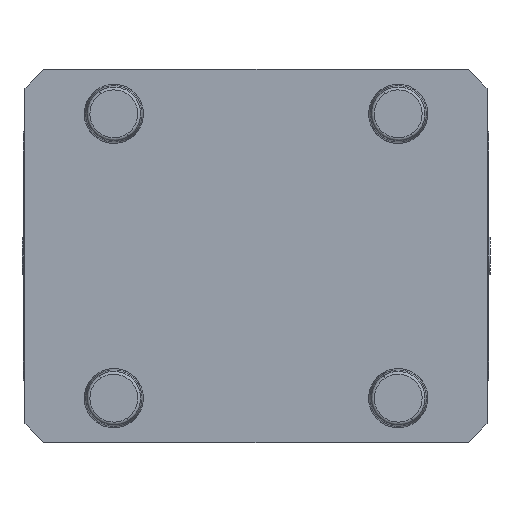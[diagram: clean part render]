
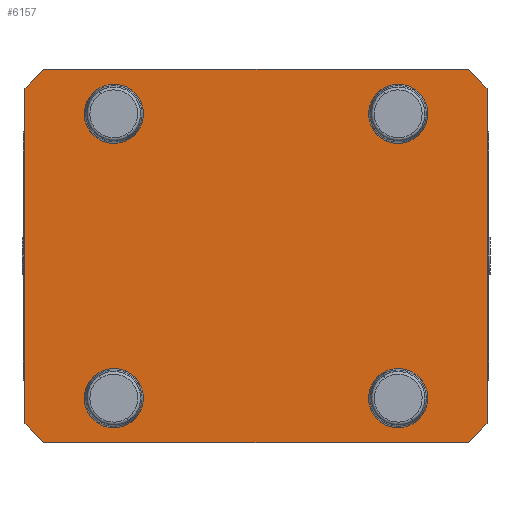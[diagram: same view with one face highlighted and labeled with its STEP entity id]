
A CAD part, front view. The second image highlights one B-rep face of the part: STEP entity #6157.
In plain terms, the highlighted planar face has unit normal (0, -1, 0).
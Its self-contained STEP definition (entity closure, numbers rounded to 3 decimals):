
#25 = VERTEX_POINT ( 'NONE', #4413 ) ;
#33 = VERTEX_POINT ( 'NONE', #825 ) ;
#124 = EDGE_CURVE ( 'NONE', #2183, #6314, #5412, .T. ) ;
#166 = CARTESIAN_POINT ( 'NONE',  ( -48., 0., 48. ) ) ;
#344 = CARTESIAN_POINT ( 'NONE',  ( -78., 0., 63. ) ) ;
#371 = DIRECTION ( 'NONE',  ( 1., 0., 0. ) ) ;
#394 = CARTESIAN_POINT ( 'NONE',  ( -48., 0., 56.01 ) ) ;
#543 = FACE_OUTER_BOUND ( 'NONE', #2702, .T. ) ;
#592 = VECTOR ( 'NONE', #3874, 1000. ) ;
#667 = LINE ( 'NONE', #7151, #6449 ) ;
#675 = LINE ( 'NONE', #1083, #2282 ) ;
#681 = DIRECTION ( 'NONE',  ( 0., 0., 1. ) ) ;
#733 = CARTESIAN_POINT ( 'NONE',  ( -48., 0., 39.99 ) ) ;
#747 = LINE ( 'NONE', #6054, #4179 ) ;
#791 = CARTESIAN_POINT ( 'NONE',  ( 78., 0., -63. ) ) ;
#816 = ORIENTED_EDGE ( 'NONE', *, *, #5406, .F. ) ;
#825 = CARTESIAN_POINT ( 'NONE',  ( -71.65, 0., -63. ) ) ;
#859 = CARTESIAN_POINT ( 'NONE',  ( 48., 0., -39.99 ) ) ;
#913 = CARTESIAN_POINT ( 'NONE',  ( -48., 0., -39.99 ) ) ;
#914 = AXIS2_PLACEMENT_3D ( 'NONE', #166, #2007, #3916 ) ;
#938 = DIRECTION ( 'NONE',  ( 0., -1., 0. ) ) ;
#971 = ORIENTED_EDGE ( 'NONE', *, *, #4555, .T. ) ;
#1018 = DIRECTION ( 'NONE',  ( 0., 1., 0. ) ) ;
#1038 = CIRCLE ( 'NONE', #914, 8.01 ) ;
#1082 = AXIS2_PLACEMENT_3D ( 'NONE', #3462, #4093, #7651 ) ;
#1083 = CARTESIAN_POINT ( 'NONE',  ( -71.65, 0., 63. ) ) ;
#1124 = EDGE_CURVE ( 'NONE', #5353, #6314, #747, .T. ) ;
#1142 = VERTEX_POINT ( 'NONE', #7800 ) ;
#1166 = DIRECTION ( 'NONE',  ( 0., -1., 0. ) ) ;
#1299 = EDGE_LOOP ( 'NONE', ( #7750, #2838 ) ) ;
#1494 = LINE ( 'NONE', #791, #7843 ) ;
#1575 = CARTESIAN_POINT ( 'NONE',  ( -48., 0., -56.01 ) ) ;
#1605 = DIRECTION ( 'NONE',  ( 0., -1., 0. ) ) ;
#1627 = EDGE_LOOP ( 'NONE', ( #7129, #3402 ) ) ;
#1821 = VERTEX_POINT ( 'NONE', #2070 ) ;
#1864 = CARTESIAN_POINT ( 'NONE',  ( 78., 0., 56.65 ) ) ;
#1891 = AXIS2_PLACEMENT_3D ( 'NONE', #7093, #6435, #4019 ) ;
#1907 = EDGE_CURVE ( 'NONE', #3153, #7137, #3192, .T. ) ;
#1991 = ORIENTED_EDGE ( 'NONE', *, *, #6802, .F. ) ;
#2007 = DIRECTION ( 'NONE',  ( 0., -1., 0. ) ) ;
#2017 = EDGE_CURVE ( 'NONE', #6093, #2240, #3755, .T. ) ;
#2070 = CARTESIAN_POINT ( 'NONE',  ( -78., 0., -56.65 ) ) ;
#2095 = VECTOR ( 'NONE', #6599, 1000. ) ;
#2151 = EDGE_CURVE ( 'NONE', #1821, #6112, #7505, .T. ) ;
#2183 = VERTEX_POINT ( 'NONE', #3696 ) ;
#2240 = VERTEX_POINT ( 'NONE', #733 ) ;
#2252 = DIRECTION ( 'NONE',  ( 0., 0., -1. ) ) ;
#2282 = VECTOR ( 'NONE', #5597, 1000. ) ;
#2361 = DIRECTION ( 'NONE',  ( 0.707, 0., 0.707 ) ) ;
#2377 = DIRECTION ( 'NONE',  ( -0.707, 0., 0.707 ) ) ;
#2517 = FACE_BOUND ( 'NONE', #1627, .T. ) ;
#2702 = EDGE_LOOP ( 'NONE', ( #4339, #5054, #5271, #5998, #1991, #971, #7503, #2792 ) ) ;
#2739 = DIRECTION ( 'NONE',  ( 0., 0., 1. ) ) ;
#2792 = ORIENTED_EDGE ( 'NONE', *, *, #1124, .T. ) ;
#2838 = ORIENTED_EDGE ( 'NONE', *, *, #5593, .F. ) ;
#2930 = CIRCLE ( 'NONE', #3809, 8.01 ) ;
#2936 = CARTESIAN_POINT ( 'NONE',  ( 48., 0., -56.01 ) ) ;
#3015 = CIRCLE ( 'NONE', #1891, 8.01 ) ;
#3033 = DIRECTION ( 'NONE',  ( 0., -1., 0. ) ) ;
#3140 = VECTOR ( 'NONE', #371, 1000. ) ;
#3153 = VERTEX_POINT ( 'NONE', #2936 ) ;
#3192 = CIRCLE ( 'NONE', #1082, 8.01 ) ;
#3237 = ORIENTED_EDGE ( 'NONE', *, *, #4299, .F. ) ;
#3296 = DIRECTION ( 'NONE',  ( 0., 0., -1. ) ) ;
#3310 = EDGE_CURVE ( 'NONE', #1821, #33, #7297, .T. ) ;
#3330 = LINE ( 'NONE', #4187, #2095 ) ;
#3333 = CARTESIAN_POINT ( 'NONE',  ( 48., 0., -48. ) ) ;
#3402 = ORIENTED_EDGE ( 'NONE', *, *, #5038, .F. ) ;
#3462 = CARTESIAN_POINT ( 'NONE',  ( 48., 0., -48. ) ) ;
#3495 = DIRECTION ( 'NONE',  ( 0., 0., -1. ) ) ;
#3573 = CARTESIAN_POINT ( 'NONE',  ( 71.65, 0., 63. ) ) ;
#3588 = CARTESIAN_POINT ( 'NONE',  ( -48., 0., 48. ) ) ;
#3691 = DIRECTION ( 'NONE',  ( 0., 0., -1. ) ) ;
#3696 = CARTESIAN_POINT ( 'NONE',  ( -71.65, 0., 63. ) ) ;
#3755 = CIRCLE ( 'NONE', #5115, 8.01 ) ;
#3809 = AXIS2_PLACEMENT_3D ( 'NONE', #4748, #1605, #2252 ) ;
#3874 = DIRECTION ( 'NONE',  ( 0.707, 0., -0.707 ) ) ;
#3916 = DIRECTION ( 'NONE',  ( 0., 0., -1. ) ) ;
#4019 = DIRECTION ( 'NONE',  ( 0., 0., -1. ) ) ;
#4093 = DIRECTION ( 'NONE',  ( 0., -1., 0. ) ) ;
#4160 = FACE_BOUND ( 'NONE', #1299, .T. ) ;
#4179 = VECTOR ( 'NONE', #2377, 1000. ) ;
#4187 = CARTESIAN_POINT ( 'NONE',  ( -78., 0., -63. ) ) ;
#4210 = VERTEX_POINT ( 'NONE', #7280 ) ;
#4225 = EDGE_CURVE ( 'NONE', #2183, #6112, #675, .T. ) ;
#4299 = EDGE_CURVE ( 'NONE', #4210, #7509, #4563, .T. ) ;
#4339 = ORIENTED_EDGE ( 'NONE', *, *, #124, .F. ) ;
#4342 = DIRECTION ( 'NONE',  ( 0., -1., 0. ) ) ;
#4413 = CARTESIAN_POINT ( 'NONE',  ( 71.65, 0., -63. ) ) ;
#4432 = CARTESIAN_POINT ( 'NONE',  ( -78., 0., -56.65 ) ) ;
#4555 = EDGE_CURVE ( 'NONE', #25, #1142, #667, .T. ) ;
#4563 = CIRCLE ( 'NONE', #7122, 8.01 ) ;
#4639 = CARTESIAN_POINT ( 'NONE',  ( 0., 0., 0. ) ) ;
#4748 = CARTESIAN_POINT ( 'NONE',  ( -48., 0., -48. ) ) ;
#4908 = EDGE_CURVE ( 'NONE', #5353, #1142, #1494, .T. ) ;
#4981 = CARTESIAN_POINT ( 'NONE',  ( 48., 0., 39.99 ) ) ;
#5038 = EDGE_CURVE ( 'NONE', #5636, #6187, #3015, .T. ) ;
#5054 = ORIENTED_EDGE ( 'NONE', *, *, #4225, .T. ) ;
#5115 = AXIS2_PLACEMENT_3D ( 'NONE', #3588, #3033, #6648 ) ;
#5258 = ORIENTED_EDGE ( 'NONE', *, *, #6256, .F. ) ;
#5271 = ORIENTED_EDGE ( 'NONE', *, *, #2151, .F. ) ;
#5353 = VERTEX_POINT ( 'NONE', #1864 ) ;
#5371 = CARTESIAN_POINT ( 'NONE',  ( 48., 0., 48. ) ) ;
#5406 = EDGE_CURVE ( 'NONE', #2240, #6093, #1038, .T. ) ;
#5412 = LINE ( 'NONE', #344, #3140 ) ;
#5522 = ORIENTED_EDGE ( 'NONE', *, *, #2017, .F. ) ;
#5593 = EDGE_CURVE ( 'NONE', #7137, #3153, #7638, .T. ) ;
#5597 = DIRECTION ( 'NONE',  ( -0.707, 0., -0.707 ) ) ;
#5600 = CARTESIAN_POINT ( 'NONE',  ( -78., 0., -63. ) ) ;
#5636 = VERTEX_POINT ( 'NONE', #913 ) ;
#5713 = AXIS2_PLACEMENT_3D ( 'NONE', #4639, #1018, #2739 ) ;
#5939 = EDGE_LOOP ( 'NONE', ( #816, #5522 ) ) ;
#5998 = ORIENTED_EDGE ( 'NONE', *, *, #3310, .T. ) ;
#6054 = CARTESIAN_POINT ( 'NONE',  ( 78., 0., 56.65 ) ) ;
#6093 = VERTEX_POINT ( 'NONE', #394 ) ;
#6112 = VERTEX_POINT ( 'NONE', #7091 ) ;
#6122 = FACE_BOUND ( 'NONE', #6385, .T. ) ;
#6157 = ADVANCED_FACE ( 'NONE', ( #2517, #4160, #6122, #6508, #543 ), #7546, .F. ) ;
#6187 = VERTEX_POINT ( 'NONE', #1575 ) ;
#6256 = EDGE_CURVE ( 'NONE', #7509, #4210, #6588, .T. ) ;
#6314 = VERTEX_POINT ( 'NONE', #3573 ) ;
#6385 = EDGE_LOOP ( 'NONE', ( #5258, #3237 ) ) ;
#6435 = DIRECTION ( 'NONE',  ( 0., -1., 0. ) ) ;
#6449 = VECTOR ( 'NONE', #2361, 1000. ) ;
#6508 = FACE_BOUND ( 'NONE', #5939, .T. ) ;
#6588 = CIRCLE ( 'NONE', #7425, 8.01 ) ;
#6599 = DIRECTION ( 'NONE',  ( -1., 0., 0. ) ) ;
#6648 = DIRECTION ( 'NONE',  ( 0., 0., -1. ) ) ;
#6802 = EDGE_CURVE ( 'NONE', #25, #33, #3330, .T. ) ;
#6954 = VECTOR ( 'NONE', #681, 1000. ) ;
#7091 = CARTESIAN_POINT ( 'NONE',  ( -78., 0., 56.65 ) ) ;
#7093 = CARTESIAN_POINT ( 'NONE',  ( -48., 0., -48. ) ) ;
#7122 = AXIS2_PLACEMENT_3D ( 'NONE', #7337, #4342, #3691 ) ;
#7129 = ORIENTED_EDGE ( 'NONE', *, *, #7776, .F. ) ;
#7137 = VERTEX_POINT ( 'NONE', #859 ) ;
#7151 = CARTESIAN_POINT ( 'NONE',  ( 71.65, 0., -63. ) ) ;
#7280 = CARTESIAN_POINT ( 'NONE',  ( 48., 0., 56.01 ) ) ;
#7297 = LINE ( 'NONE', #4432, #592 ) ;
#7337 = CARTESIAN_POINT ( 'NONE',  ( 48., 0., 48. ) ) ;
#7395 = AXIS2_PLACEMENT_3D ( 'NONE', #3333, #938, #7615 ) ;
#7425 = AXIS2_PLACEMENT_3D ( 'NONE', #5371, #1166, #3495 ) ;
#7503 = ORIENTED_EDGE ( 'NONE', *, *, #4908, .F. ) ;
#7505 = LINE ( 'NONE', #5600, #6954 ) ;
#7509 = VERTEX_POINT ( 'NONE', #4981 ) ;
#7546 = PLANE ( 'NONE',  #5713 ) ;
#7615 = DIRECTION ( 'NONE',  ( 0., 0., -1. ) ) ;
#7638 = CIRCLE ( 'NONE', #7395, 8.01 ) ;
#7651 = DIRECTION ( 'NONE',  ( 0., 0., -1. ) ) ;
#7750 = ORIENTED_EDGE ( 'NONE', *, *, #1907, .F. ) ;
#7776 = EDGE_CURVE ( 'NONE', #6187, #5636, #2930, .T. ) ;
#7800 = CARTESIAN_POINT ( 'NONE',  ( 78., 0., -56.65 ) ) ;
#7843 = VECTOR ( 'NONE', #3296, 1000. ) ;
